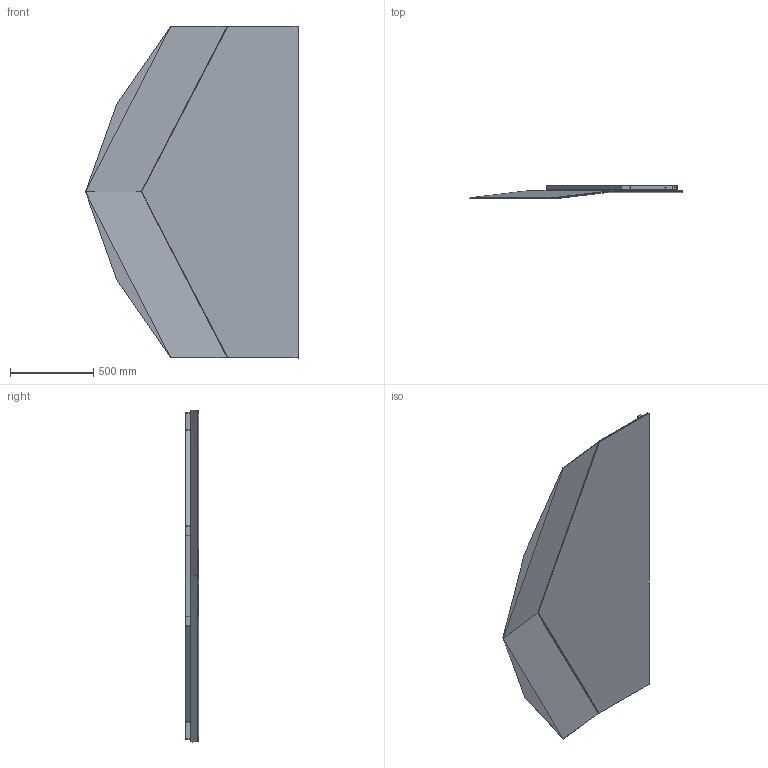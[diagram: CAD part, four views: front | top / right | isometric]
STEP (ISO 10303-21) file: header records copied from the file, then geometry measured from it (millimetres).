
FILE_DESCRIPTION(/* description */ (''),/* implementation_level */ '2;1');
FILE_NAME(/* name */ 'MGS128',/* time_stamp */ '2026-06-09T16:45:47+02:00',/* author */ (''),/* organization */ (''),/* preprocessor_version */ 'ST-DEVELOPER v16.5',/* originating_system */ '',/* authorisation */ '');
FILE_SCHEMA (('AUTOMOTIVE_DESIGN'));
Length unit declared in the file: millimetre
Products named in the file (1): Document
Bounding box: 1281.3 x 79.07 x 1999.5 mm (x, y, z)
Volume: 21100813 mm3; surface area: 8595989.6 mm2
Topology: 10 solids, 10 shells, 236 faces, 656 edges, 436 vertices
Faces by surface type: bspline 131, plane 105
Entity records: 37491 total; most frequent: CARTESIAN_POINT 33481, ORIENTED_EDGE 1304, EDGE_CURVE 652, VERTEX_POINT 436, B_SPLINE_CURVE_WITH_KNOTS 404, EDGE_LOOP 284, ADVANCED_FACE 236, FACE_OUTER_BOUND 236
